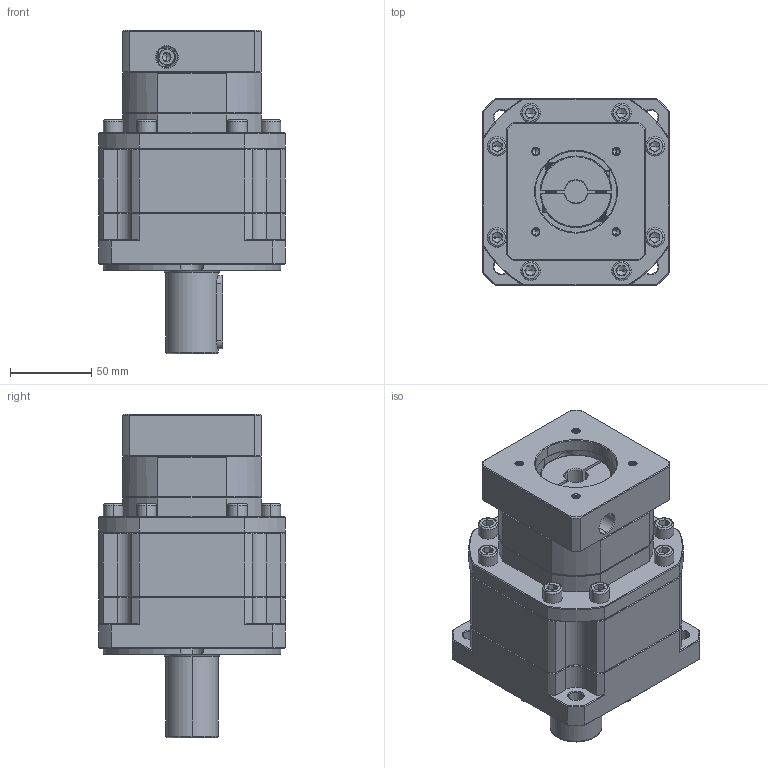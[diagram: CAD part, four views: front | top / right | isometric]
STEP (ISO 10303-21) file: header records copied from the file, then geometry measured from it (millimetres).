
FILE_DESCRIPTION (( 'STEP AP214' ), '1' );
FILE_NAME ('ZB115A-D32-L2-P2-14-50-70-M5.step', '2023-08-26T10:01:26', ( '' ), ( '' ), 'SwSTEP 2.0', 'SolidWorks 2016', '' );
FILE_SCHEMA (( 'AUTOMOTIVE_DESIGN' ));
Length unit declared in the file: millimetre
Products named in the file (1): ZB115A-D32-L2-P2-14-50-70-M5
Bounding box: 115 x 115 x 199 mm (x, y, z)
Volume: 1395186.5 mm3; surface area: 134086.3 mm2
Topology: 5 solids, 6 shells, 2418 faces, 6363 edges, 4047 vertices
Faces by surface type: plane 1186, bspline 442, cylinder 425, cone 365
Entity records: 129177 total; most frequent: CARTESIAN_POINT 46578, ORIENTED_EDGE 12650, DIRECTION 9987, EDGE_CURVE 6325, LINE 4055, VECTOR 4055, VERTEX_POINT 4047, AXIS2_PLACEMENT_3D 2966
